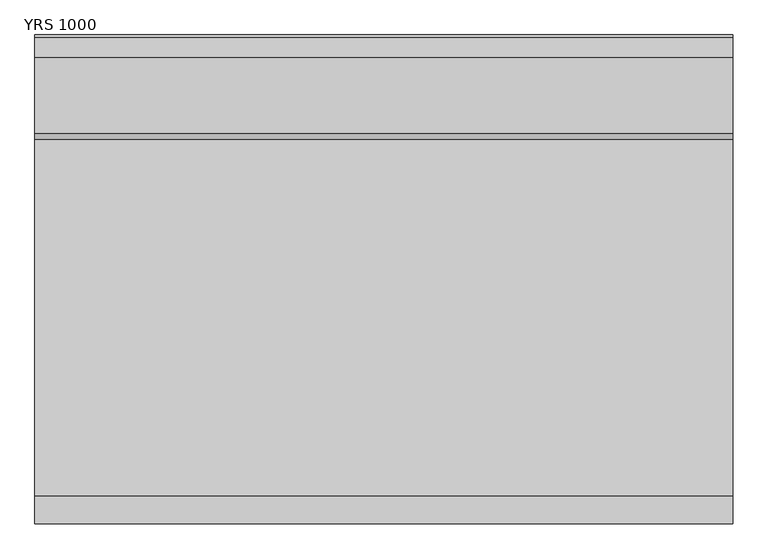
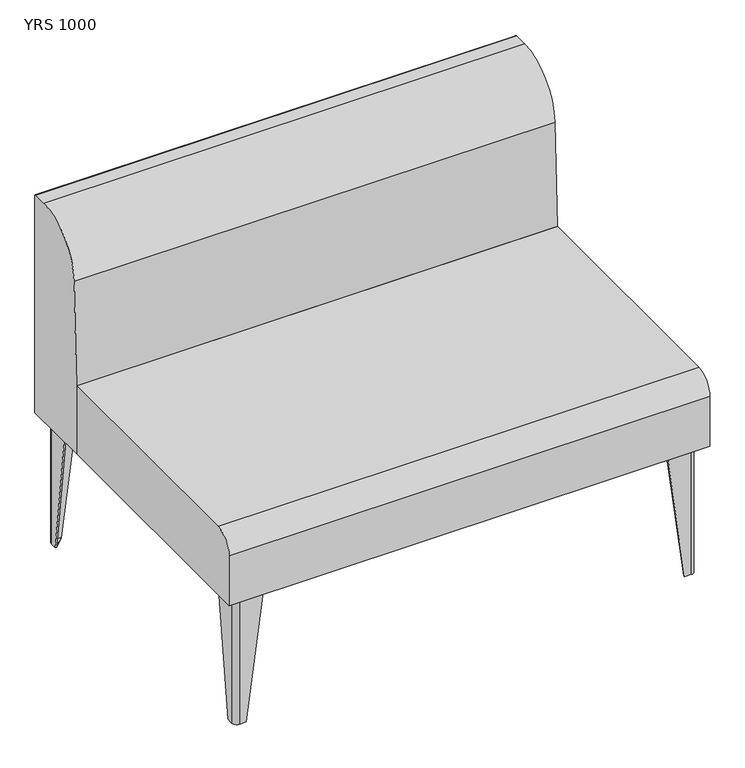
"""IFC4 building model written with IfcOpenShell, lengths in millimetres: furniture geometry, Mobiliário_Mobiliário de Escritório_LinhaYoung_Sofa Reto (Aço) - YR_Marelli : YRS 1000."""

from ifc_helpers import new_model, si_unit, point, frame, frame_2d, origin, origin_with_axes, place, context, project, spatial, polyline, circle_curve, trimmed, segment, composite_curve, outline, extrude, source, transform, mapped, element, save
from ifc_brep_helpers import plane_surface, cylinder_surface, revolved_surface, advanced_brep


def yrs_1000_8e3fc700(model_context):
    return source(origin(), model_context, "Body", "SolidModel", [
        advanced_brep(
        [(20.0, 75.0, 280.0), (20.0, 25.0, 280.0), (30.0, 15.0, 280.0), (80.0, 15.0, 280.0), (80.0, 18.0, 280.0), (30.0, 18.0, 280.0), (23.0, 25.0, 280.0), (23.0, 75.0, 280.0), (20.0, 39.0, 0.0), (23.0, 39.0, 0.0), (23.0, 25.0, 0.0), (30.0, 18.0, 0.0), (44.0, 18.0, 0.0), (44.0, 15.0, 0.0), (30.0, 15.0, 0.0), (20.0, 25.0, 0.0)],
        [
            (0, 1),
            (1, 2, circle_curve(frame((30.0, 25.0, 280.0), z_axis=(0.0, 0.0, 1.0), x_axis=(0.0, -1.0, 0.0)), 10.0)),
            (2, 3),
            (3, 4),
            (4, 5),
            (5, 6, circle_curve(frame((30.0, 25.0, 280.0), z_axis=(0.0, 0.0, -1.0), x_axis=(-1.0, 0.0, 0.0)), 7.0)),
            (6, 7),
            (7, 0),
            (8, 9),
            (9, 10),
            (10, 11, circle_curve(frame((30.0, 25.0, 0.0), z_axis=(0.0, 0.0, 1.0), x_axis=(-1.0, 0.0, 0.0)), 7.0)),
            (11, 12),
            (12, 13),
            (13, 14),
            (14, 15, circle_curve(frame((30.0, 25.0, 0.0), z_axis=(0.0, 0.0, -1.0), x_axis=(0.0, -1.0, 0.0)), 10.0)),
            (15, 8),
            (15, 1),
            (0, 8),
            (14, 2),
            (13, 3),
            (12, 4),
            (11, 5),
            (10, 6),
            (9, 7),
        ],
        [
            plane_surface(frame((38.25, 33.25, 280.0), z_axis=(0.0, 0.0, 1.0), x_axis=(0.0, -1.0, 0.0))),
            plane_surface(frame((29.25, 24.25, 0.0), z_axis=(0.0, 0.0, -1.0), x_axis=(0.0, -1.0, 0.0))),
            plane_surface(frame((20.0, 32.0, 0.0), z_axis=(-1.0, 0.0, 0.0), x_axis=(0.0, -1.0, 0.0))),
            cylinder_surface(frame((30.0, 25.0, 0.0), z_axis=(0.0, 0.0, 1.0), x_axis=(0.0, -1.0, 0.0)), 10.0),
            plane_surface(frame((37.0, 15.0, 0.0), z_axis=(0.0, -1.0, 0.0), x_axis=(1.0, 0.0, 0.0))),
            plane_surface(frame((44.0, 16.5, 0.0), z_axis=(0.9918357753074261, 0.0, -0.12752174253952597), x_axis=(0.0, 1.0, 0.0))),
            plane_surface(frame((37.0, 18.0, 0.0), z_axis=(0.0, 1.0, 0.0), x_axis=(-1.0, 0.0, 0.0))),
            revolved_surface(polyline([(23.0, 25.0, 280.0), (23.0, 25.0, 0.0)]), (30.0, 25.0, 0.0), (0.0, 0.0, 1.0)),
            plane_surface(frame((23.0, 32.0, 0.0), z_axis=(1.0, 0.0, 0.0), x_axis=(0.0, 1.0, 0.0))),
            plane_surface(frame((21.5, 39.0, 0.0), z_axis=(0.0, 0.9918357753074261, -0.12752174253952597), x_axis=(-1.0, 0.0, 0.0))),
        ],
        [
            (0, [[1, 2, 3, 4, 5, 6, 7, 8]]),
            (1, [[9, 10, 11, 12, 13, 14, 15, 16]]),
            (2, [[-16, 17, -1, 18]]),
            (3, [[-15, 19, -2, -17]]),
            (4, [[-14, 20, -3, -19]]),
            (5, [[-13, 21, -4, -20]]),
            (6, [[-12, 22, -5, -21]]),
            (7, [[-11, 23, -6, -22]]),
            (8, [[-10, 24, -7, -23]]),
            (9, [[-9, -18, -8, -24]]),
        ],
    ),
        advanced_brep(
        [(980.0, 75.0, 280.0), (977.0, 75.0, 280.0), (977.0, 25.0, 280.0), (970.0, 18.0, 280.0), (920.0, 18.0, 280.0), (920.0, 15.0, 280.0), (970.0, 15.0, 280.0), (980.0, 25.0, 280.0), (980.0, 39.0, 0.0), (980.0, 25.0, 0.0), (970.0, 15.0, 0.0), (956.0, 15.0, 0.0), (956.0, 18.0, 0.0), (970.0, 18.0, 0.0), (977.0, 25.0, 0.0), (977.0, 39.0, 0.0)],
        [
            (0, 1),
            (1, 2),
            (2, 3, circle_curve(frame((970.0, 25.0, 280.0), z_axis=(0.0, 0.0, -1.0), x_axis=(0.0, -1.0, 0.0)), 7.0)),
            (3, 4),
            (4, 5),
            (5, 6),
            (6, 7, circle_curve(frame((970.0, 25.0, 280.0), z_axis=(0.0, 0.0, 1.0), x_axis=(1.0, 0.0, 0.0)), 10.0)),
            (7, 0),
            (8, 9),
            (9, 10, circle_curve(frame((970.0, 25.0, 0.0), z_axis=(0.0, 0.0, -1.0), x_axis=(1.0, 0.0, 0.0)), 10.0)),
            (10, 11),
            (11, 12),
            (12, 13),
            (13, 14, circle_curve(frame((970.0, 25.0, 0.0), z_axis=(0.0, 0.0, 1.0), x_axis=(0.0, -1.0, 0.0)), 7.0)),
            (14, 15),
            (15, 8),
            (8, 0),
            (7, 9),
            (6, 10),
            (5, 11),
            (4, 12),
            (3, 13),
            (2, 14),
            (1, 15),
        ],
        [
            plane_surface(frame((961.75, 33.25, 280.0), z_axis=(0.0, 0.0, 1.0), x_axis=(-1.0, 0.0, 0.0))),
            plane_surface(frame((970.75, 24.25, 0.0), z_axis=(0.0, 0.0, -1.0), x_axis=(-1.0, 0.0, 0.0))),
            plane_surface(frame((980.0, 32.0, 0.0), z_axis=(1.0, 0.0, 0.0), x_axis=(0.0, 1.0, 0.0))),
            cylinder_surface(frame((970.0, 25.0, 0.0), z_axis=(0.0, 0.0, 1.0), x_axis=(1.0, 0.0, 0.0)), 10.0),
            plane_surface(frame((963.0, 15.0, 0.0), z_axis=(0.0, -1.0, 0.0), x_axis=(1.0, 0.0, 0.0))),
            plane_surface(frame((956.0, 16.5, 0.0), z_axis=(-0.9918357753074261, 0.0, -0.127521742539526), x_axis=(0.0, -1.0, 0.0))),
            plane_surface(frame((963.0, 18.0, 0.0), z_axis=(0.0, 1.0, 0.0), x_axis=(-1.0, 0.0, 0.0))),
            revolved_surface(polyline([(970.0, 18.0, 280.0), (970.0, 18.0, 0.0)]), (970.0, 25.0, 0.0), (0.0, 0.0, 1.0)),
            plane_surface(frame((977.0, 32.0, 0.0), z_axis=(-1.0, 0.0, 0.0), x_axis=(0.0, -1.0, 0.0))),
            plane_surface(frame((978.5, 39.0, 0.0), z_axis=(0.0, 0.9918357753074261, -0.12752174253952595), x_axis=(-1.0, 0.0, 0.0))),
        ],
        [
            (0, [[1, 2, 3, 4, 5, 6, 7, 8]]),
            (1, [[9, 10, 11, 12, 13, 14, 15, 16]]),
            (2, [[-9, 17, -8, 18]]),
            (3, [[-10, -18, -7, 19]]),
            (4, [[-11, -19, -6, 20]]),
            (5, [[-12, -20, -5, 21]]),
            (6, [[-13, -21, -4, 22]]),
            (7, [[-14, -22, -3, 23]]),
            (8, [[-15, -23, -2, 24]]),
            (9, [[-16, -24, -1, -17]]),
        ],
    ),
        advanced_brep(
        [(20.0, 625.0, 280.0), (23.0, 625.0, 280.0), (23.0, 675.0, 280.0), (30.0, 682.0, 280.0), (80.0, 682.0, 280.0), (80.0, 685.0, 280.0), (30.0, 685.0, 280.0), (20.0, 675.0, 280.0), (20.0, 661.0, 0.0), (20.0, 675.0, 0.0), (30.0, 685.0, 0.0), (44.0, 685.0, 0.0), (44.0, 682.0, 0.0), (30.0, 682.0, 0.0), (23.0, 675.0, 0.0), (23.0, 661.0, 0.0)],
        [
            (0, 1),
            (1, 2),
            (2, 3, circle_curve(frame((30.0, 675.0, 280.0), z_axis=(0.0, 0.0, -1.0), x_axis=(0.0, 1.0, 0.0)), 7.0)),
            (3, 4),
            (4, 5),
            (5, 6),
            (6, 7, circle_curve(frame((30.0, 675.0, 280.0), z_axis=(0.0, 0.0, 1.0), x_axis=(-1.0, 0.0, 0.0)), 10.0)),
            (7, 0),
            (8, 9),
            (9, 10, circle_curve(frame((30.0, 675.0, 0.0), z_axis=(0.0, 0.0, -1.0), x_axis=(-1.0, 0.0, 0.0)), 10.0)),
            (10, 11),
            (11, 12),
            (12, 13),
            (13, 14, circle_curve(frame((30.0, 675.0, 0.0), z_axis=(0.0, 0.0, 1.0), x_axis=(0.0, 1.0, 0.0)), 7.0)),
            (14, 15),
            (15, 8),
            (8, 0),
            (7, 9),
            (6, 10),
            (5, 11),
            (4, 12),
            (3, 13),
            (2, 14),
            (1, 15),
        ],
        [
            plane_surface(frame((38.25, 666.75, 280.0), z_axis=(0.0, 0.0, 1.0), x_axis=(1.0, 0.0, 0.0))),
            plane_surface(frame((29.25, 675.75, 0.0), z_axis=(0.0, 0.0, -1.0), x_axis=(1.0, 0.0, 0.0))),
            plane_surface(frame((20.0, 668.0, 0.0), z_axis=(-1.0, 0.0, 0.0), x_axis=(0.0, -1.0, 0.0))),
            cylinder_surface(frame((30.0, 675.0, 0.0), z_axis=(0.0, 0.0, 1.0), x_axis=(-1.0, 0.0, 0.0)), 10.0),
            plane_surface(frame((37.0, 685.0, 0.0), z_axis=(0.0, 1.0, 0.0), x_axis=(-1.0, 0.0, 0.0))),
            plane_surface(frame((44.0, 683.5, 0.0), z_axis=(0.9918357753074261, 0.0, -0.12752174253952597), x_axis=(0.0, 1.0, 0.0))),
            plane_surface(frame((37.0, 682.0, 0.0), z_axis=(0.0, -1.0, 0.0), x_axis=(1.0, 0.0, 0.0))),
            revolved_surface(polyline([(30.0, 682.0, 280.0), (30.0, 682.0, 0.0)]), (30.0, 675.0, 0.0), (0.0, 0.0, 1.0)),
            plane_surface(frame((23.0, 668.0, 0.0), z_axis=(1.0, 0.0, 0.0), x_axis=(0.0, 1.0, 0.0))),
            plane_surface(frame((21.5, 661.0, 0.0), z_axis=(0.0, -0.9918357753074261, -0.127521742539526), x_axis=(1.0, 0.0, 0.0))),
        ],
        [
            (0, [[1, 2, 3, 4, 5, 6, 7, 8]]),
            (1, [[9, 10, 11, 12, 13, 14, 15, 16]]),
            (2, [[-9, 17, -8, 18]]),
            (3, [[-10, -18, -7, 19]]),
            (4, [[-11, -19, -6, 20]]),
            (5, [[-12, -20, -5, 21]]),
            (6, [[-13, -21, -4, 22]]),
            (7, [[-14, -22, -3, 23]]),
            (8, [[-15, -23, -2, 24]]),
            (9, [[-16, -24, -1, -17]]),
        ],
    ),
        advanced_brep(
        [(980.0, 625.0, 280.0), (980.0, 675.0, 280.0), (970.0, 685.0, 280.0), (920.0, 685.0, 280.0), (920.0, 682.0, 280.0), (970.0, 682.0, 280.0), (977.0, 675.0, 280.0), (977.0, 625.0, 280.0), (980.0, 661.0, 0.0), (977.0, 661.0, 0.0), (977.0, 675.0, 0.0), (970.0, 682.0, 0.0), (956.0, 682.0, 0.0), (956.0, 685.0, 0.0), (970.0, 685.0, 0.0), (980.0, 675.0, 0.0)],
        [
            (0, 1),
            (1, 2, circle_curve(frame((970.0, 675.0, 280.0), z_axis=(0.0, 0.0, 1.0), x_axis=(0.0, 1.0, 0.0)), 10.0)),
            (2, 3),
            (3, 4),
            (4, 5),
            (5, 6, circle_curve(frame((970.0, 675.0, 280.0), z_axis=(0.0, 0.0, -1.0), x_axis=(1.0, 0.0, 0.0)), 7.0)),
            (6, 7),
            (7, 0),
            (8, 9),
            (9, 10),
            (10, 11, circle_curve(frame((970.0, 675.0, 0.0), z_axis=(0.0, 0.0, 1.0), x_axis=(1.0, 0.0, 0.0)), 7.0)),
            (11, 12),
            (12, 13),
            (13, 14),
            (14, 15, circle_curve(frame((970.0, 675.0, 0.0), z_axis=(0.0, 0.0, -1.0), x_axis=(0.0, 1.0, 0.0)), 10.0)),
            (15, 8),
            (15, 1),
            (0, 8),
            (14, 2),
            (13, 3),
            (12, 4),
            (11, 5),
            (10, 6),
            (9, 7),
        ],
        [
            plane_surface(frame((961.75, 666.75, 280.0), z_axis=(0.0, 0.0, 1.0), x_axis=(0.0, 1.0, 0.0))),
            plane_surface(frame((970.75, 675.75, 0.0), z_axis=(0.0, 0.0, -1.0), x_axis=(0.0, 1.0, 0.0))),
            plane_surface(frame((980.0, 668.0, 0.0), z_axis=(1.0, 0.0, 0.0), x_axis=(0.0, 1.0, 0.0))),
            cylinder_surface(frame((970.0, 675.0, 0.0), z_axis=(0.0, 0.0, 1.0), x_axis=(0.0, 1.0, 0.0)), 10.0),
            plane_surface(frame((963.0, 685.0, 0.0), z_axis=(0.0, 1.0, 0.0), x_axis=(-1.0, 0.0, 0.0))),
            plane_surface(frame((956.0, 683.5, 0.0), z_axis=(-0.9918357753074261, 0.0, -0.127521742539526), x_axis=(0.0, -1.0, 0.0))),
            plane_surface(frame((963.0, 682.0, 0.0), z_axis=(0.0, -1.0, 0.0), x_axis=(1.0, 0.0, 0.0))),
            revolved_surface(polyline([(977.0, 675.0, 280.0), (977.0, 675.0, 0.0)]), (970.0, 675.0, 0.0), (0.0, 0.0, 1.0)),
            plane_surface(frame((977.0, 668.0, 0.0), z_axis=(-1.0, 0.0, 0.0), x_axis=(0.0, -1.0, 0.0))),
            plane_surface(frame((978.5, 661.0, 0.0), z_axis=(0.0, -0.9918357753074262, -0.12752174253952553), x_axis=(1.0, 0.0, 0.0))),
        ],
        [
            (0, [[1, 2, 3, 4, 5, 6, 7, 8]]),
            (1, [[9, 10, 11, 12, 13, 14, 15, 16]]),
            (2, [[-16, 17, -1, 18]]),
            (3, [[-15, 19, -2, -17]]),
            (4, [[-14, 20, -3, -19]]),
            (5, [[-13, 21, -4, -20]]),
            (6, [[-12, 22, -5, -21]]),
            (7, [[-11, 23, -6, -22]]),
            (8, [[-10, 24, -7, -23]]),
            (9, [[-9, -18, -8, -24]]),
        ],
    ),
        extrude(outline(composite_curve([segment(polyline([(23.0, 39.0), (44.0, 18.0), (30.0, 18.0)]), True, "CONTINUOUS"), segment(trimmed(circle_curve(frame_2d((30.0, 25.0)), 7.0), [point((30.0, 18.0))], [point((23.0, 25.0))], False, "CARTESIAN"), True, "CONTINUOUS"), segment(polyline([(23.0, 25.0), (23.0, 39.0)]), True, "CONTINUOUS")], self_intersect=False)), origin_with_axes(), (0.0, 0.0, 1.0), 1.0),
        extrude(outline(composite_curve([segment(polyline([(23.0, 661.0), (23.0, 675.0)]), True, "CONTINUOUS"), segment(trimmed(circle_curve(frame_2d((30.0, 675.0)), 7.0), [point((23.0, 675.0))], [point((30.0, 682.0))], False, "CARTESIAN"), True, "CONTINUOUS"), segment(polyline([(30.0, 682.0), (44.0, 682.0), (23.0, 661.0)]), True, "CONTINUOUS")], self_intersect=False)), origin_with_axes(), (0.0, 0.0, 1.0), 1.0),
        extrude(outline(composite_curve([segment(polyline([(977.0, 39.0), (977.0, 25.0)]), True, "CONTINUOUS"), segment(trimmed(circle_curve(frame_2d((970.0, 25.0)), 7.0), [point((977.0, 25.0))], [point((970.0, 18.0))], False, "CARTESIAN"), True, "CONTINUOUS"), segment(polyline([(970.0, 18.0), (956.0, 18.0), (977.0, 39.0)]), True, "CONTINUOUS")], self_intersect=False)), origin_with_axes(), (0.0, 0.0, 1.0), 1.0),
        extrude(outline(composite_curve([segment(polyline([(977.0, 661.0), (956.0, 682.0), (970.0, 682.0)]), True, "CONTINUOUS"), segment(trimmed(circle_curve(frame_2d((970.0, 675.0)), 7.0), [point((970.0, 682.0))], [point((977.0, 675.0))], False, "CARTESIAN"), True, "CONTINUOUS"), segment(polyline([(977.0, 675.0), (977.0, 661.0)]), True, "CONTINUOUS")], self_intersect=False)), origin_with_axes(), (0.0, 0.0, 1.0), 1.0),
        extrude(outline(composite_curve([segment(trimmed(circle_curve(frame_2d((30.0, 25.0)), 7.0), [point((30.0, 18.0))], [point((23.0, 25.0))], False, "CARTESIAN"), True, "CONTINUOUS"), segment(polyline([(23.0, 25.0), (23.0, 93.0)]), True, "CONTINUOUS"), segment(trimmed(circle_curve(frame_2d((28.0, 93.0)), 5.0), [point((23.0, 93.0))], [point((28.0, 98.0))], False, "CARTESIAN"), True, "CONTINUOUS"), segment(polyline([(28.0, 98.0), (51.9545624, 98.0)]), True, "CONTINUOUS"), segment(trimmed(circle_curve(frame_2d((52.6241051, 89.931755)), 8.0959783), [point((51.9545624, 98.0))], [point((58.520382, 95.479618))], False, "CARTESIAN"), True, "CONTINUOUS"), segment(polyline([(58.520382, 95.479618), (100.479618, 53.520382)]), True, "CONTINUOUS"), segment(trimmed(circle_curve(frame_2d((94.931755, 47.6241051)), 8.0959783), [point((100.479618, 53.520382))], [point((103.0, 46.9545624))], False, "CARTESIAN"), True, "CONTINUOUS"), segment(polyline([(103.0, 46.9545624), (103.0, 23.0)]), True, "CONTINUOUS"), segment(trimmed(circle_curve(frame_2d((98.0, 23.0)), 5.0), [point((103.0, 23.0))], [point((98.0, 18.0))], False, "CARTESIAN"), True, "CONTINUOUS"), segment(polyline([(98.0, 18.0), (30.0, 18.0)]), True, "CONTINUOUS")], self_intersect=False)), frame((0.0, 0.0, 279.0), z_axis=(0.0, 0.0, 1.0), x_axis=(1.0, 0.0, 0.0)), (0.0, 0.0, 1.0), 1.0),
        extrude(outline(composite_curve([segment(polyline([(30.0, 682.0), (98.0, 682.0)]), True, "CONTINUOUS"), segment(trimmed(circle_curve(frame_2d((98.0, 677.0)), 5.0), [point((98.0, 682.0))], [point((103.0, 677.0))], False, "CARTESIAN"), True, "CONTINUOUS"), segment(polyline([(103.0, 677.0), (103.0, 653.0454376)]), True, "CONTINUOUS"), segment(trimmed(circle_curve(frame_2d((94.931755, 652.3758949)), 8.0959783), [point((103.0, 653.0454376))], [point((100.479618, 646.479618))], False, "CARTESIAN"), True, "CONTINUOUS"), segment(polyline([(100.479618, 646.479618), (58.520382, 604.520382)]), True, "CONTINUOUS"), segment(trimmed(circle_curve(frame_2d((52.6241051, 610.068245)), 8.0959783), [point((58.520382, 604.520382))], [point((51.9545624, 602.0))], False, "CARTESIAN"), True, "CONTINUOUS"), segment(polyline([(51.9545624, 602.0), (28.0, 602.0)]), True, "CONTINUOUS"), segment(trimmed(circle_curve(frame_2d((28.0, 607.0)), 5.0), [point((28.0, 602.0))], [point((23.0, 607.0))], False, "CARTESIAN"), True, "CONTINUOUS"), segment(polyline([(23.0, 607.0), (23.0, 675.0)]), True, "CONTINUOUS"), segment(trimmed(circle_curve(frame_2d((30.0, 675.0)), 7.0), [point((23.0, 675.0))], [point((30.0, 682.0))], False, "CARTESIAN"), True, "CONTINUOUS")], self_intersect=False)), frame((0.0, 0.0, 279.0), z_axis=(0.0, 0.0, 1.0), x_axis=(1.0, 0.0, 0.0)), (0.0, 0.0, 1.0), 1.0),
        extrude(outline(composite_curve([segment(polyline([(970.0, 18.0), (902.0, 18.0)]), True, "CONTINUOUS"), segment(trimmed(circle_curve(frame_2d((902.0, 23.0)), 5.0), [point((902.0, 18.0))], [point((897.0, 23.0))], False, "CARTESIAN"), True, "CONTINUOUS"), segment(polyline([(897.0, 23.0), (897.0, 46.9545624)]), True, "CONTINUOUS"), segment(trimmed(circle_curve(frame_2d((905.068245, 47.6241051)), 8.0959783), [point((897.0, 46.9545624))], [point((899.520382, 53.520382))], False, "CARTESIAN"), True, "CONTINUOUS"), segment(polyline([(899.520382, 53.520382), (941.479618, 95.479618)]), True, "CONTINUOUS"), segment(trimmed(circle_curve(frame_2d((947.3758949, 89.931755)), 8.0959783), [point((941.479618, 95.479618))], [point((948.0454376, 98.0))], False, "CARTESIAN"), True, "CONTINUOUS"), segment(polyline([(948.0454376, 98.0), (972.0, 98.0)]), True, "CONTINUOUS"), segment(trimmed(circle_curve(frame_2d((972.0, 93.0)), 5.0), [point((972.0, 98.0))], [point((977.0, 93.0))], False, "CARTESIAN"), True, "CONTINUOUS"), segment(polyline([(977.0, 93.0), (977.0, 25.0)]), True, "CONTINUOUS"), segment(trimmed(circle_curve(frame_2d((970.0, 25.0)), 7.0), [point((977.0, 25.0))], [point((970.0, 18.0))], False, "CARTESIAN"), True, "CONTINUOUS")], self_intersect=False)), frame((0.0, 0.0, 279.0), z_axis=(0.0, 0.0, 1.0), x_axis=(1.0, 0.0, 0.0)), (0.0, 0.0, 1.0), 1.0),
        extrude(outline(composite_curve([segment(trimmed(circle_curve(frame_2d((970.0, 675.0)), 7.0), [point((970.0, 682.0))], [point((977.0, 675.0))], False, "CARTESIAN"), True, "CONTINUOUS"), segment(polyline([(977.0, 675.0), (977.0, 607.0)]), True, "CONTINUOUS"), segment(trimmed(circle_curve(frame_2d((972.0, 607.0)), 5.0), [point((977.0, 607.0))], [point((972.0, 602.0))], False, "CARTESIAN"), True, "CONTINUOUS"), segment(polyline([(972.0, 602.0), (948.0454376, 602.0)]), True, "CONTINUOUS"), segment(trimmed(circle_curve(frame_2d((947.3758949, 610.068245)), 8.0959783), [point((948.0454376, 602.0))], [point((941.479618, 604.520382))], False, "CARTESIAN"), True, "CONTINUOUS"), segment(polyline([(941.479618, 604.520382), (899.520382, 646.479618)]), True, "CONTINUOUS"), segment(trimmed(circle_curve(frame_2d((905.068245, 652.3758949)), 8.0959783), [point((899.520382, 646.479618))], [point((897.0, 653.0454376))], False, "CARTESIAN"), True, "CONTINUOUS"), segment(polyline([(897.0, 653.0454376), (897.0, 677.0)]), True, "CONTINUOUS"), segment(trimmed(circle_curve(frame_2d((902.0, 677.0)), 5.0), [point((897.0, 677.0))], [point((902.0, 682.0))], False, "CARTESIAN"), True, "CONTINUOUS"), segment(polyline([(902.0, 682.0), (970.0, 682.0)]), True, "CONTINUOUS")], self_intersect=False)), frame((0.0, 0.0, 279.0), z_axis=(0.0, 0.0, 1.0), x_axis=(1.0, 0.0, 0.0)), (0.0, 0.0, 1.0), 1.0),
        extrude(outline(composite_curve([segment(polyline([(700.0, 756.802426), (700.0, 280.0), (550.0, 280.0), (550.0, 430.0), (558.2568376, 654.223651)]), True, "CONTINUOUS"), segment(trimmed(circle_curve(frame_2d((668.0, 650.1824561)), 109.8175439), [point((558.2568376, 654.223651))], [point((668.0, 760.0))], False, "CARTESIAN"), True, "CONTINUOUS"), segment(polyline([(668.0, 760.0), (696.802426, 760.0)]), True, "CONTINUOUS"), segment(trimmed(circle_curve(frame_2d((696.802426, 756.802426)), 3.197574), [point((696.802426, 760.0))], [point((700.0, 756.802426))], False, "CARTESIAN"), True, "CONTINUOUS")], self_intersect=False)), frame((0.0, 0.0, 0.0), z_axis=(1.0, 0.0, 0.0), x_axis=(0.0, 1.0, 0.0)), (0.0, 0.0, 1.0), 1000.0),
        extrude(outline(composite_curve([segment(polyline([(550.0, 430.0), (550.0, 280.0), (0.0, 280.0), (0.0, 390.0)]), True, "CONTINUOUS"), segment(trimmed(circle_curve(frame_2d((40.0, 390.0)), 40.0), [point((0.0, 390.0))], [point((40.0, 430.0))], False, "CARTESIAN"), True, "CONTINUOUS"), segment(polyline([(40.0, 430.0), (550.0, 430.0)]), True, "CONTINUOUS")], self_intersect=False)), frame((0.0, 0.0, 0.0), z_axis=(1.0, 0.0, 0.0), x_axis=(0.0, 1.0, 0.0)), (0.0, 0.0, 1.0), 1000.0),
    ])


if __name__ == "__main__":
    model = new_model("IFC4")
    model_context = context("Model", 3, world=origin())
    ifc_project = project(units=[si_unit("LENGTHUNIT", "METRE", prefix="MILLI")], contexts=[model_context])
    site = spatial("IfcSite", under=ifc_project)
    building = spatial("IfcBuilding", under=site)
    placement = place(None, origin())
    yrs_1000_shape = yrs_1000_8e3fc700(model_context)
    element("IfcFurniture", 1, ObjectType="Mobiliário_Mobiliário de Escritório_LinhaYoung_Sofa Reto (Aço) - YR_Marelli : YRS 1000", at=placement, inside=building, context=model_context, shape_type="MappedRepresentation", body=[
        mapped(yrs_1000_shape, transform((0.0, 0.0, 0.0), x_axis=(1.0, 0.0, 0.0), y_axis=(0.0, 1.0, 0.0), z_axis=(0.0, 0.0, 1.0))),
    ])
    save(model, "model.ifc")
